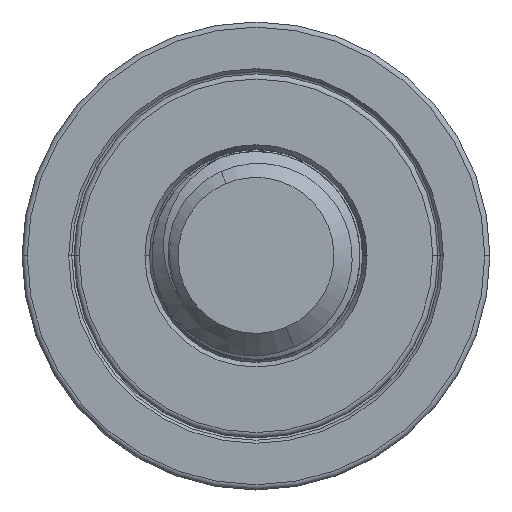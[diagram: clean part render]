
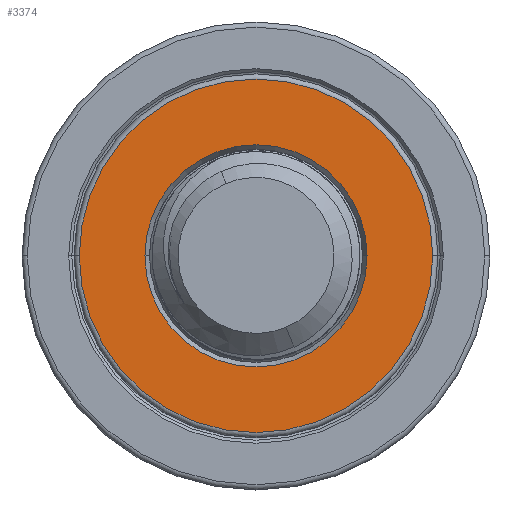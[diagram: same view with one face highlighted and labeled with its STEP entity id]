
A CAD part, top view. The second image highlights one B-rep face of the part: STEP entity #3374.
In plain terms, the highlighted planar face has unit normal (0, 0, 1).
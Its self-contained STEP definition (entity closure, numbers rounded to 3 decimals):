
#15 = VERTEX_POINT ( 'NONE', #3552 ) ;
#90 = CARTESIAN_POINT ( 'NONE',  ( 6.8, 0., 0. ) ) ;
#120 = DIRECTION ( 'NONE',  ( 0., 0., -1. ) ) ;
#167 = DIRECTION ( 'NONE',  ( 1., 0., 0. ) ) ;
#680 = AXIS2_PLACEMENT_3D ( 'NONE', #2520, #120, #3726 ) ;
#753 = PLANE ( 'NONE',  #2960 ) ;
#820 = ORIENTED_EDGE ( 'NONE', *, *, #1475, .T. ) ;
#959 = CIRCLE ( 'NONE', #5048, 4.273 ) ;
#990 = CARTESIAN_POINT ( 'NONE',  ( 4.273, 0., 0. ) ) ;
#1174 = ORIENTED_EDGE ( 'NONE', *, *, #1514, .T. ) ;
#1232 = ORIENTED_EDGE ( 'NONE', *, *, #1646, .T. ) ;
#1475 = EDGE_CURVE ( 'NONE', #15, #2943, #959, .T. ) ;
#1514 = EDGE_CURVE ( 'NONE', #3273, #2136, #3610, .T. ) ;
#1646 = EDGE_CURVE ( 'NONE', #2136, #3273, #2976, .T. ) ;
#1871 = DIRECTION ( 'NONE',  ( 0., 0., -1. ) ) ;
#2136 = VERTEX_POINT ( 'NONE', #3158 ) ;
#2180 = CARTESIAN_POINT ( 'NONE',  ( 0., 0., 0. ) ) ;
#2224 = EDGE_LOOP ( 'NONE', ( #4758, #820 ) ) ;
#2444 = EDGE_CURVE ( 'NONE', #2943, #15, #3649, .T. ) ;
#2474 = DIRECTION ( 'NONE',  ( 0., 0., 1. ) ) ;
#2520 = CARTESIAN_POINT ( 'NONE',  ( 0., 0., 0. ) ) ;
#2521 = AXIS2_PLACEMENT_3D ( 'NONE', #2601, #4642, #3030 ) ;
#2601 = CARTESIAN_POINT ( 'NONE',  ( 0., 0., 0. ) ) ;
#2694 = DIRECTION ( 'NONE',  ( 0., 0., 1. ) ) ;
#2698 = FACE_BOUND ( 'NONE', #2224, .T. ) ;
#2943 = VERTEX_POINT ( 'NONE', #990 ) ;
#2960 = AXIS2_PLACEMENT_3D ( 'NONE', #3957, #2474, #3276 ) ;
#2976 = CIRCLE ( 'NONE', #5134, 6.8 ) ;
#3030 = DIRECTION ( 'NONE',  ( 1., 0., 0. ) ) ;
#3101 = DIRECTION ( 'NONE',  ( 1., 0., 0. ) ) ;
#3158 = CARTESIAN_POINT ( 'NONE',  ( -6.8, 0., 0. ) ) ;
#3273 = VERTEX_POINT ( 'NONE', #90 ) ;
#3276 = DIRECTION ( 'NONE',  ( 1., 0., 0. ) ) ;
#3374 = ADVANCED_FACE ( 'NONE', ( #2698, #4687 ), #753, .T. ) ;
#3523 = CARTESIAN_POINT ( 'NONE',  ( 0., 0., 0. ) ) ;
#3552 = CARTESIAN_POINT ( 'NONE',  ( -4.273, 0., 0. ) ) ;
#3610 = CIRCLE ( 'NONE', #2521, 6.8 ) ;
#3649 = CIRCLE ( 'NONE', #680, 4.273 ) ;
#3726 = DIRECTION ( 'NONE',  ( 1., 0., 0. ) ) ;
#3727 = EDGE_LOOP ( 'NONE', ( #1174, #1232 ) ) ;
#3957 = CARTESIAN_POINT ( 'NONE',  ( 7., 0., 0. ) ) ;
#4642 = DIRECTION ( 'NONE',  ( 0., 0., 1. ) ) ;
#4687 = FACE_OUTER_BOUND ( 'NONE', #3727, .T. ) ;
#4758 = ORIENTED_EDGE ( 'NONE', *, *, #2444, .T. ) ;
#5048 = AXIS2_PLACEMENT_3D ( 'NONE', #2180, #1871, #167 ) ;
#5134 = AXIS2_PLACEMENT_3D ( 'NONE', #3523, #2694, #3101 ) ;
